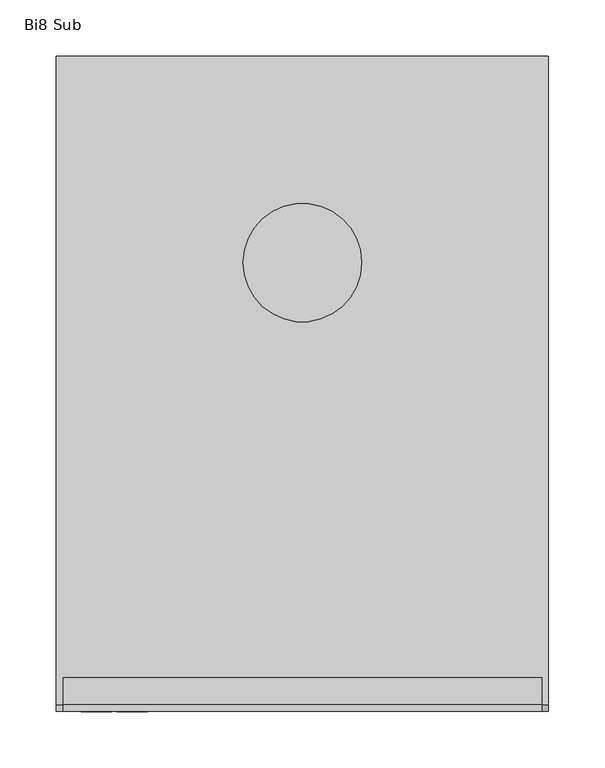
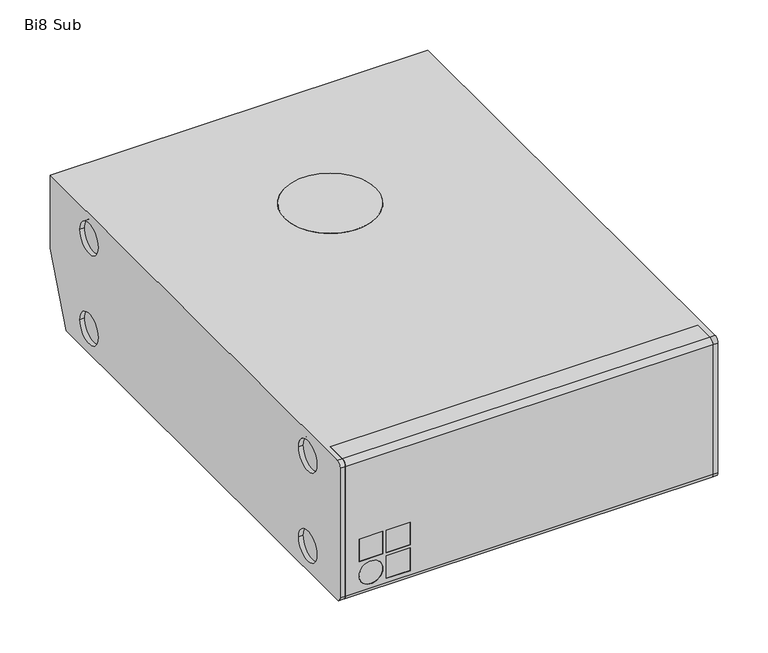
"""IFC4 building model written with IfcOpenShell, lengths in millimetres: proxy geometry, d&b Bi8 Subwoofer : Bi8 Sub."""

from ifc_helpers import new_model, si_unit, point, frame, frame_2d, origin, place, context, project, spatial, polyline, circle_curve, ellipse_curve, trimmed, segment, composite_curve, outline, extrude, source, transform, mapped, element, save
from ifc_brep_helpers import plane_surface, cylinder_surface, revolved_surface, advanced_brep


def bi8_sub_5164e3e7(model_context):
    return source(origin(), model_context, "Body", "SolidModel", [
        advanced_brep(
        [(212.0, -290.0, -76.25), (212.0, -284.0, -82.25), (212.0, -284.0, 87.75), (212.0, -290.0, 81.75), (-212.0, -290.0, -76.25), (-212.0, -290.0, 81.75), (-212.0, -284.0, 87.75), (-212.0, -284.0, -82.25), (-164.8089888, -290.0, -39.7780899), (-164.8089888, -290.0, -12.25), (-137.2808989, -290.0, -12.25), (-137.2808989, -290.0, -39.7780899), (-196.2696629, -290.0, -39.7780899), (-196.2696629, -290.0, -12.25), (-168.741573, -290.0, -12.25), (-168.741573, -290.0, -39.7780899), (-164.8089888, -290.0, -71.238764), (-164.8089888, -290.0, -43.7106742), (-137.2808989, -290.0, -43.7106742), (-137.2808989, -290.0, -71.238764), (-168.741573, -290.0, -57.4747191), (-196.2696629, -290.0, -57.4747191), (-164.8089888, -284.0, -12.25), (-164.8089888, -284.0, -39.7780899), (-137.2808989, -284.0, -39.7780899), (-137.2808989, -284.0, -12.25), (-196.2696629, -284.0, -12.25), (-196.2696629, -284.0, -39.7780899), (-168.741573, -284.0, -39.7780899), (-168.741573, -284.0, -12.25), (-164.8089888, -284.0, -43.7106742), (-164.8089888, -284.0, -71.238764), (-137.2808989, -284.0, -71.238764), (-137.2808989, -284.0, -43.7106742), (-196.2696629, -284.0, -57.4747191), (-168.741573, -284.0, -57.4747191)],
        [
            (0, 1, circle_curve(frame((212.0, -284.0, -76.25), z_axis=(1.0, 0.0, 0.0), x_axis=(0.0, 1.0, 0.0)), 6.0)),
            (1, 2),
            (2, 3, circle_curve(frame((212.0, -284.0, 81.75), z_axis=(1.0, 0.0, 0.0), x_axis=(0.0, 1.0, 0.0)), 6.0)),
            (3, 0),
            (4, 5),
            (5, 6, circle_curve(frame((-212.0, -284.0, 81.75), z_axis=(-1.0, 0.0, 0.0), x_axis=(0.0, 1.0, 0.0)), 6.0)),
            (6, 7),
            (7, 4, circle_curve(frame((-212.0, -284.0, -76.25), z_axis=(-1.0, 0.0, 0.0), x_axis=(0.0, 1.0, 0.0)), 6.0)),
            (3, 5),
            (4, 0),
            (8, 9),
            (9, 10),
            (10, 11),
            (11, 8),
            (12, 13),
            (13, 14),
            (14, 15),
            (15, 12),
            (16, 17),
            (17, 18),
            (18, 19),
            (19, 16),
            (20, 21, circle_curve(frame((-182.505618, -290.0, -57.4747191), z_axis=(0.0, 1.0, 0.0), x_axis=(1.0, 0.0, 0.0)), 13.7640449)),
            (21, 20, circle_curve(frame((-182.505618, -290.0, -57.4747191), z_axis=(0.0, 1.0, 0.0), x_axis=(1.0, 0.0, 0.0)), 13.7640449)),
            (2, 6),
            (7, 1),
            (22, 23),
            (23, 24),
            (24, 25),
            (25, 22),
            (26, 27),
            (27, 28),
            (28, 29),
            (29, 26),
            (30, 31),
            (31, 32),
            (32, 33),
            (33, 30),
            (34, 35, circle_curve(frame((-182.505618, -284.0, -57.4747191), z_axis=(0.0, -1.0, 0.0), x_axis=(1.0, 0.0, 0.0)), 13.7640449)),
            (35, 34, circle_curve(frame((-182.505618, -284.0, -57.4747191), z_axis=(0.0, -1.0, 0.0), x_axis=(1.0, 0.0, 0.0)), 13.7640449)),
            (23, 8),
            (11, 24),
            (10, 25),
            (9, 22),
            (31, 16),
            (19, 32),
            (18, 33),
            (17, 30),
            (12, 27),
            (26, 13),
            (15, 28),
            (14, 29),
            (20, 35),
            (34, 21),
        ],
        [
            plane_surface(frame((212.0, -278.0, -76.25), z_axis=(1.0, 0.0, 0.0), x_axis=(0.0, 0.0, 1.0))),
            plane_surface(frame((-212.0, -278.0, -76.25), z_axis=(-1.0, 0.0, 0.0), x_axis=(0.0, 0.0, -1.0))),
            plane_surface(frame((212.0, -290.0, 81.75), z_axis=(0.0, -1.0, 0.0), x_axis=(-1.0, 0.0, 0.0))),
            cylinder_surface(frame((-212.0, -284.0, 81.75), z_axis=(1.0, 0.0, 0.0), x_axis=(0.0, 1.0, 0.0)), 6.0),
            cylinder_surface(frame((-212.0, -284.0, -76.25), z_axis=(1.0, 0.0, 0.0), x_axis=(0.0, 1.0, 0.0)), 6.0),
            plane_surface(frame((212.0, -284.0, -82.25), z_axis=(0.0, 1.0, 0.0), x_axis=(-1.0, 0.0, 0.0))),
            plane_surface(frame((-164.8089888, -290.0, -39.7780899), z_axis=(0.0, 0.0, 1.0), x_axis=(0.0, 1.0, 0.0))),
            plane_surface(frame((-137.2808989, -290.0, -39.7780899), z_axis=(-1.0, 0.0, 0.0), x_axis=(0.0, 1.0, 0.0))),
            plane_surface(frame((-137.2808989, -290.0, -12.25), z_axis=(0.0, 0.0, -1.0), x_axis=(0.0, 1.0, 0.0))),
            plane_surface(frame((-164.8089888, -290.0, -71.238764), z_axis=(0.0, 0.0, 1.0), x_axis=(0.0, 1.0, 0.0))),
            plane_surface(frame((-137.2808989, -290.0, -71.238764), z_axis=(-1.0, 0.0, 0.0), x_axis=(0.0, 1.0, 0.0))),
            plane_surface(frame((-137.2808989, -290.0, -43.7106742), z_axis=(0.0, 0.0, -1.0), x_axis=(0.0, 1.0, 0.0))),
            plane_surface(frame((-164.8089888, -290.0, -12.25), z_axis=(1.0, 0.0, 0.0), x_axis=(0.0, 1.0, 0.0))),
            plane_surface(frame((-196.2696629, -290.0, -12.25), z_axis=(1.0, 0.0, 0.0), x_axis=(0.0, 1.0, 0.0))),
            plane_surface(frame((-196.2696629, -290.0, -39.7780899), z_axis=(0.0, 0.0, 1.0), x_axis=(0.0, 1.0, 0.0))),
            plane_surface(frame((-168.741573, -290.0, -39.7780899), z_axis=(-1.0, 0.0, 0.0), x_axis=(0.0, 1.0, 0.0))),
            plane_surface(frame((-168.741573, -290.0, -12.25), z_axis=(0.0, 0.0, -1.0), x_axis=(0.0, 1.0, 0.0))),
            plane_surface(frame((-164.8089888, -290.0, -43.7106742), z_axis=(1.0, 0.0, 0.0), x_axis=(0.0, 1.0, 0.0))),
            revolved_surface(polyline([(-168.7415731, -290.0, -57.4747191), (-168.7415731, -284.0, -57.4747191)]), (-182.505618, -290.0, -57.4747191), (0.0, -1.0, 0.0)),
        ],
        [
            (0, [[1, 2, 3, 4]]),
            (1, [[5, 6, 7, 8]]),
            (2, [[-4, 9, -5, 10], [11, 12, 13, 14], [15, 16, 17, 18], [19, 20, 21, 22], [23, 24]]),
            (3, [[-3, 25, -6, -9]]),
            (4, [[-1, -10, -8, 26]]),
            (5, [[-2, -26, -7, -25], [27, 28, 29, 30], [31, 32, 33, 34], [35, 36, 37, 38], [39, 40]]),
            (6, [[41, -14, 42, -28]]),
            (7, [[-42, -13, 43, -29]]),
            (8, [[44, -30, -43, -12]]),
            (9, [[45, -22, 46, -36]]),
            (10, [[-46, -21, 47, -37]]),
            (11, [[48, -38, -47, -20]]),
            (12, [[-41, -27, -44, -11]]),
            (13, [[49, -31, 50, -15]]),
            (14, [[-49, -18, 51, -32]]),
            (15, [[-51, -17, 52, -33]]),
            (16, [[-50, -34, -52, -16]]),
            (17, [[-45, -35, -48, -19]]),
            (18, [[53, -39, 54, -23]]),
            (18, [[-53, -24, -54, -40]]),
        ],
    ),
        extrude(outline(polyline([(-137.2808989, -290.0), (-164.8089888, -290.0), (-164.8089888, -284.0), (-137.2808989, -284.0), (-137.2808989, -290.0)])), frame((0.0, 0.0, -39.7780899), z_axis=(0.0, 0.0, 1.0), x_axis=(1.0, 0.0, 0.0)), (0.0, 0.0, 1.0), 27.5280899),
        extrude(outline(polyline([(-168.741573, -290.0), (-196.2696629, -290.0), (-196.2696629, -284.0), (-168.741573, -284.0), (-168.741573, -290.0)])), frame((0.0, 0.0, -39.7780899), z_axis=(0.0, 0.0, 1.0), x_axis=(1.0, 0.0, 0.0)), (0.0, 0.0, 1.0), 27.5280899),
        extrude(outline(polyline([(-137.2808989, -290.0), (-164.8089888, -290.0), (-164.8089888, -284.0), (-137.2808989, -284.0), (-137.2808989, -290.0)])), frame((0.0, 0.0, -71.238764), z_axis=(0.0, 0.0, 1.0), x_axis=(1.0, 0.0, 0.0)), (0.0, 0.0, 1.0), 27.5280899),
        extrude(outline(composite_curve([segment(trimmed(circle_curve(frame_2d((-57.4747191, -182.505618)), 13.7640449), [point((-57.4747191, -196.2696629))], [point((-57.4747191, -168.741573))], False, "CARTESIAN"), True, "CONTINUOUS"), segment(trimmed(circle_curve(frame_2d((-57.4747191, -182.505618)), 13.7640449), [point((-57.4747191, -168.741573))], [point((-57.4747191, -196.2696629))], False, "CARTESIAN"), True, "CONTINUOUS")], self_intersect=False)), frame((0.0, -290.0, 0.0), z_axis=(0.0, 1.0, 0.0), x_axis=(0.0, 0.0, 1.0)), (0.0, 0.0, 1.0), 6.0),
        extrude(outline(polyline([(212.0, -260.0), (212.0, -284.0), (-212.0, -284.0), (-212.0, -260.0), (212.0, -260.0)])), frame((0.0, 0.0, -82.25), z_axis=(0.0, 0.0, 1.0), x_axis=(1.0, 0.0, 0.0)), (0.0, 0.0, 1.0), 170.0),
        extrude(outline(composite_curve([segment(trimmed(circle_curve(frame_2d((0.0, 107.5)), 52.5), [point((52.5, 107.5))], [point((-52.5, 107.5))], False, "CARTESIAN"), True, "CONTINUOUS"), segment(trimmed(circle_curve(frame_2d((0.0, 107.5)), 52.5), [point((-52.5, 107.5))], [point((52.5, 107.5))], False, "CARTESIAN"), True, "CONTINUOUS")], self_intersect=False)), frame((0.0, 0.0, 77.75), z_axis=(0.0, 0.0, 1.0), x_axis=(1.0, 0.0, 0.0)), (0.0, 0.0, 1.0), 10.0),
        advanced_brep(
        [(212.0, -260.0, -82.25), (-212.0, -260.0, -82.25), (-212.0, -284.0, -82.25), (-218.0, -284.0, -82.25), (-218.0, 257.2738757, -82.25), (218.0, 257.2738757, -82.25), (218.0, -284.0, -82.25), (212.0, -284.0, -82.25), (-159.7271934, 224.9288972, -82.25), (-196.2271934, 224.9288972, -82.25), (196.2271934, 224.9288972, -82.25), (159.7271934, 224.9288972, -82.25), (-159.7271934, -212.1163972, -82.25), (-196.2271934, -212.1163972, -82.25), (196.2271934, -212.1163972, -82.25), (159.7271934, -212.1163972, -82.25), (-218.0, 290.0, -1.25), (-58.4448475, 290.0, -1.25), (-58.4448475, 289.2718385, -3.0522628), (-58.4448475, 270.9729113, -48.3436972), (-46.4448475, 266.1245966, -60.3436972), (45.487267, 266.1245966, -60.3436972), (57.487267, 270.9729113, -48.3436972), (57.487267, 289.2718385, -3.0522628), (57.487267, 290.0, -1.25), (218.0, 290.0, -1.25), (-218.0, 290.0, 87.75), (218.0, 290.0, 87.75), (57.487267, 290.0, 0.6938031), (57.487267, 290.0, 47.4846055), (45.487267, 290.0, 59.4846055), (-46.4448475, 290.0, 59.4846055), (-58.4448475, 290.0, 47.4846055), (-58.4448475, 290.0, 0.6938031), (-212.0, -260.0, 87.75), (212.0, -260.0, 87.75), (212.0, -284.0, 87.75), (218.0, -284.0, 87.75), (-218.0, -284.0, 87.75), (-212.0, -284.0, 87.75), (-52.5, 107.5, 87.75), (52.5, 107.5, 87.75), (-212.0, -290.0, 81.75), (-212.0, -290.0, -76.25), (-218.0, -290.0, -76.25), (-218.0, -290.0, 81.75), (-218.0, 193.75, 57.75), (-218.0, 230.25, 57.75), (-218.0, 193.75, -52.25), (-218.0, 230.25, -52.25), (-218.0, -243.25, 57.75), (-218.0, -206.75, 57.75), (-218.0, -243.25, -52.25), (-218.0, -206.75, -52.25), (212.0, -290.0, -76.25), (212.0, -290.0, 81.75), (218.0, -290.0, 81.75), (218.0, -290.0, -76.25), (52.5, 107.5, 77.75), (-52.5, 107.5, 77.75), (45.487267, 256.954574, -60.3436972), (-46.4448475, 256.954574, -60.3436972), (-56.6650566, 256.954574, -54.6323637), (55.7074761, 256.954574, -54.6323637), (-46.4448475, 256.954574, 59.4846055), (45.487267, 256.954574, 59.4846055), (51.3483362, 256.954574, 57.9558933), (-52.3059167, 256.954574, 57.9558933), (58.4448475, 256.954574, 57.9558933), (58.4448475, 256.954574, -54.6323637), (58.4448475, 211.6877968, -36.3433986), (58.4448475, 250.7929844, 60.4453371), (-58.4448475, 250.7929844, 60.4453371), (-58.4448475, 256.954574, 57.9558933), (-58.4448475, 211.6877968, -36.3433986), (-58.4448475, 256.954574, -54.6323637), (57.487267, 256.954574, 47.4846055), (57.487267, 256.954574, -48.3436972), (-58.4448475, 256.954574, 47.4846055), (-58.4448475, 256.954574, -48.3436972), (-212.5, 193.75, 57.75), (-212.5, 230.25, 57.75), (-212.5, 193.75, -52.25), (-212.5, 230.25, -52.25), (-212.5, -243.25, 57.75), (-212.5, -206.75, 57.75), (-212.5, -243.25, -52.25), (-212.5, -206.75, -52.25), (-159.7271934, 224.9288972, -76.75), (-196.2271934, 224.9288972, -76.75), (196.2271934, 224.9288972, -76.75), (159.7271934, 224.9288972, -76.75), (-159.7271934, -212.1163972, -76.75), (-196.2271934, -212.1163972, -76.75), (196.2271934, -212.1163972, -76.75), (159.7271934, -212.1163972, -76.75)],
        [
            (0, 1),
            (1, 2),
            (2, 3),
            (3, 4),
            (4, 5),
            (5, 6),
            (6, 7),
            (7, 0),
            (8, 9, circle_curve(frame((-177.9771934, 224.9288972, -82.25), z_axis=(0.0, 0.0, 1.0), x_axis=(-1.0, 0.0, 0.0)), 18.25)),
            (9, 8, circle_curve(frame((-177.9771934, 224.9288972, -82.25), z_axis=(0.0, 0.0, 1.0), x_axis=(-1.0, 0.0, 0.0)), 18.25)),
            (10, 11, circle_curve(frame((177.9771934, 224.9288972, -82.25), z_axis=(0.0, 0.0, 1.0), x_axis=(-1.0, 0.0, 0.0)), 18.25)),
            (11, 10, circle_curve(frame((177.9771934, 224.9288972, -82.25), z_axis=(0.0, 0.0, 1.0), x_axis=(-1.0, 0.0, 0.0)), 18.25)),
            (12, 13, circle_curve(frame((-177.9771934, -212.1163972, -82.25), z_axis=(0.0, 0.0, 1.0), x_axis=(-1.0, 0.0, 0.0)), 18.25)),
            (13, 12, circle_curve(frame((-177.9771934, -212.1163972, -82.25), z_axis=(0.0, 0.0, 1.0), x_axis=(-1.0, 0.0, 0.0)), 18.25)),
            (14, 15, circle_curve(frame((177.9771934, -212.1163972, -82.25), z_axis=(0.0, 0.0, 1.0), x_axis=(-1.0, 0.0, 0.0)), 18.25)),
            (15, 14, circle_curve(frame((177.9771934, -212.1163972, -82.25), z_axis=(0.0, 0.0, 1.0), x_axis=(-1.0, 0.0, 0.0)), 18.25)),
            (4, 16),
            (16, 17),
            (17, 18),
            (18, 19),
            (19, 20, ellipse_curve(frame((-46.4448475, 270.9729113, -48.3436972), z_axis=(0.0, -0.9271838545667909, 0.3746065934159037), x_axis=(0.0, 0.37460659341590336, 0.927183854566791)), 12.9424169, 12.0)),
            (20, 21),
            (21, 22, ellipse_curve(frame((45.487267, 270.9729113, -48.3436972), z_axis=(0.0, -0.9271838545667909, 0.3746065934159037), x_axis=(0.0, 0.37460659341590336, 0.927183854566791)), 12.9424169, 12.0)),
            (22, 23),
            (23, 24),
            (24, 25),
            (25, 5),
            (16, 26),
            (26, 27),
            (27, 25),
            (24, 28),
            (28, 29),
            (29, 30, circle_curve(frame((45.487267, 290.0, 47.4846055), z_axis=(0.0, -1.0, 0.0), x_axis=(-1.0, 0.0, 0.0)), 12.0)),
            (30, 31),
            (31, 32, circle_curve(frame((-46.4448475, 290.0, 47.4846055), z_axis=(0.0, -1.0, 0.0), x_axis=(-1.0, 0.0, 0.0)), 12.0)),
            (32, 33),
            (33, 17),
            (34, 35),
            (35, 36),
            (36, 37),
            (37, 27),
            (26, 38),
            (38, 39),
            (39, 34),
            (40, 41, circle_curve(frame((0.0, 107.5, 87.75), z_axis=(0.0, 0.0, -1.0), x_axis=(-1.0, 0.0, 0.0)), 52.5)),
            (41, 40, circle_curve(frame((0.0, 107.5, 87.75), z_axis=(0.0, 0.0, -1.0), x_axis=(-1.0, 0.0, 0.0)), 52.5)),
            (0, 35),
            (34, 1),
            (39, 42, circle_curve(frame((-212.0, -284.0, 81.75), z_axis=(1.0, 0.0, 0.0), x_axis=(0.0, 1.0, 0.0)), 6.0)),
            (42, 43),
            (43, 2, circle_curve(frame((-212.0, -284.0, -76.25), z_axis=(1.0, 0.0, 0.0), x_axis=(0.0, 1.0, 0.0)), 6.0)),
            (3, 44, circle_curve(frame((-218.0, -284.0, -76.25), z_axis=(-1.0, 0.0, 0.0), x_axis=(0.0, 1.0, 0.0)), 6.0)),
            (44, 45),
            (45, 38, circle_curve(frame((-218.0, -284.0, 81.75), z_axis=(-1.0, 0.0, 0.0), x_axis=(0.0, 1.0, 0.0)), 6.0)),
            (46, 47, circle_curve(frame((-218.0, 212.0, 57.75), z_axis=(1.0, 0.0, 0.0), x_axis=(0.0, 1.0, 0.0)), 18.25)),
            (47, 46, circle_curve(frame((-218.0, 212.0, 57.75), z_axis=(1.0, 0.0, 0.0), x_axis=(0.0, 1.0, 0.0)), 18.25)),
            (48, 49, circle_curve(frame((-218.0, 212.0, -52.25), z_axis=(1.0, 0.0, 0.0), x_axis=(0.0, 1.0, 0.0)), 18.25)),
            (49, 48, circle_curve(frame((-218.0, 212.0, -52.25), z_axis=(1.0, 0.0, 0.0), x_axis=(0.0, 1.0, 0.0)), 18.25)),
            (50, 51, circle_curve(frame((-218.0, -225.0, 57.75), z_axis=(1.0, 0.0, 0.0), x_axis=(0.0, 1.0, 0.0)), 18.25)),
            (51, 50, circle_curve(frame((-218.0, -225.0, 57.75), z_axis=(1.0, 0.0, 0.0), x_axis=(0.0, 1.0, 0.0)), 18.25)),
            (52, 53, circle_curve(frame((-218.0, -225.0, -52.25), z_axis=(1.0, 0.0, 0.0), x_axis=(0.0, 1.0, 0.0)), 18.25)),
            (53, 52, circle_curve(frame((-218.0, -225.0, -52.25), z_axis=(1.0, 0.0, 0.0), x_axis=(0.0, 1.0, 0.0)), 18.25)),
            (42, 45),
            (44, 43),
            (7, 54, circle_curve(frame((212.0, -284.0, -76.25), z_axis=(-1.0, 0.0, 0.0), x_axis=(0.0, 1.0, 0.0)), 6.0)),
            (54, 55),
            (55, 36, circle_curve(frame((212.0, -284.0, 81.75), z_axis=(-1.0, 0.0, 0.0), x_axis=(0.0, 1.0, 0.0)), 6.0)),
            (37, 56, circle_curve(frame((218.0, -284.0, 81.75), z_axis=(1.0, 0.0, 0.0), x_axis=(0.0, 1.0, 0.0)), 6.0)),
            (56, 57),
            (57, 6, circle_curve(frame((218.0, -284.0, -76.25), z_axis=(1.0, 0.0, 0.0), x_axis=(0.0, 1.0, 0.0)), 6.0)),
            (54, 57),
            (56, 55),
            (58, 59, circle_curve(frame((0.0, 107.5, 77.75), z_axis=(0.0, 0.0, 1.0), x_axis=(-1.0, 0.0, 0.0)), 52.5)),
            (59, 58, circle_curve(frame((0.0, 107.5, 77.75), z_axis=(0.0, 0.0, 1.0), x_axis=(-1.0, 0.0, 0.0)), 52.5)),
            (58, 41),
            (40, 59),
            (60, 61),
            (61, 62, circle_curve(frame((-46.4448475, 256.954574, -48.3436972), z_axis=(0.0, 1.0, 0.0), x_axis=(-1.0, 0.0, 0.0)), 12.0)),
            (62, 63),
            (63, 60, circle_curve(frame((45.487267, 256.954574, -48.3436972), z_axis=(0.0, 1.0, 0.0), x_axis=(-1.0, 0.0, 0.0)), 12.0)),
            (64, 65),
            (65, 66, circle_curve(frame((45.487267, 256.954574, 47.4846055), z_axis=(0.0, 1.0, 0.0), x_axis=(-1.0, 0.0, 0.0)), 12.0)),
            (66, 67),
            (67, 64, circle_curve(frame((-46.4448475, 256.954574, 47.4846055), z_axis=(0.0, 1.0, 0.0), x_axis=(-1.0, 0.0, 0.0)), 12.0)),
            (60, 21),
            (20, 61),
            (64, 31),
            (30, 65),
            (68, 69),
            (69, 70),
            (70, 71),
            (71, 68),
            (71, 72),
            (72, 73),
            (73, 67),
            (66, 68),
            (70, 74),
            (74, 72),
            (69, 63),
            (62, 75),
            (75, 74),
            (66, 76, circle_curve(frame((45.487267, 256.954574, 47.4846055), z_axis=(0.0, 1.0, 0.0), x_axis=(-1.0, 0.0, 0.0)), 12.0)),
            (76, 77),
            (77, 63, circle_curve(frame((45.487267, 256.954574, -48.3436972), z_axis=(0.0, 1.0, 0.0), x_axis=(-1.0, 0.0, 0.0)), 12.0)),
            (73, 78),
            (78, 67, circle_curve(frame((-46.4448475, 256.954574, 47.4846055), z_axis=(0.0, 1.0, 0.0), x_axis=(-1.0, 0.0, 0.0)), 12.0)),
            (79, 75),
            (62, 79, circle_curve(frame((-46.4448475, 256.954574, -48.3436972), z_axis=(0.0, 1.0, 0.0), x_axis=(-1.0, 0.0, 0.0)), 12.0)),
            (76, 29),
            (22, 77),
            (19, 79),
            (32, 78),
            (80, 81, circle_curve(frame((-212.5, 212.0, 57.75), z_axis=(-1.0, 0.0, 0.0), x_axis=(0.0, 1.0, 0.0)), 18.25)),
            (81, 80, circle_curve(frame((-212.5, 212.0, 57.75), z_axis=(-1.0, 0.0, 0.0), x_axis=(0.0, 1.0, 0.0)), 18.25)),
            (82, 83, circle_curve(frame((-212.5, 212.0, -52.25), z_axis=(-1.0, 0.0, 0.0), x_axis=(0.0, 1.0, 0.0)), 18.25)),
            (83, 82, circle_curve(frame((-212.5, 212.0, -52.25), z_axis=(-1.0, 0.0, 0.0), x_axis=(0.0, 1.0, 0.0)), 18.25)),
            (84, 85, circle_curve(frame((-212.5, -225.0, 57.75), z_axis=(-1.0, 0.0, 0.0), x_axis=(0.0, 1.0, 0.0)), 18.25)),
            (85, 84, circle_curve(frame((-212.5, -225.0, 57.75), z_axis=(-1.0, 0.0, 0.0), x_axis=(0.0, 1.0, 0.0)), 18.25)),
            (86, 87, circle_curve(frame((-212.5, -225.0, -52.25), z_axis=(-1.0, 0.0, 0.0), x_axis=(0.0, 1.0, 0.0)), 18.25)),
            (87, 86, circle_curve(frame((-212.5, -225.0, -52.25), z_axis=(-1.0, 0.0, 0.0), x_axis=(0.0, 1.0, 0.0)), 18.25)),
            (81, 47),
            (46, 80),
            (83, 49),
            (48, 82),
            (85, 51),
            (50, 84),
            (87, 53),
            (52, 86),
            (88, 89, circle_curve(frame((-177.9771934, 224.9288972, -76.75), z_axis=(0.0, 0.0, -1.0), x_axis=(-1.0, 0.0, 0.0)), 18.25)),
            (89, 88, circle_curve(frame((-177.9771934, 224.9288972, -76.75), z_axis=(0.0, 0.0, -1.0), x_axis=(-1.0, 0.0, 0.0)), 18.25)),
            (90, 91, circle_curve(frame((177.9771934, 224.9288972, -76.75), z_axis=(0.0, 0.0, -1.0), x_axis=(-1.0, 0.0, 0.0)), 18.25)),
            (91, 90, circle_curve(frame((177.9771934, 224.9288972, -76.75), z_axis=(0.0, 0.0, -1.0), x_axis=(-1.0, 0.0, 0.0)), 18.25)),
            (92, 93, circle_curve(frame((-177.9771934, -212.1163972, -76.75), z_axis=(0.0, 0.0, -1.0), x_axis=(-1.0, 0.0, 0.0)), 18.25)),
            (93, 92, circle_curve(frame((-177.9771934, -212.1163972, -76.75), z_axis=(0.0, 0.0, -1.0), x_axis=(-1.0, 0.0, 0.0)), 18.25)),
            (94, 95, circle_curve(frame((177.9771934, -212.1163972, -76.75), z_axis=(0.0, 0.0, -1.0), x_axis=(-1.0, 0.0, 0.0)), 18.25)),
            (95, 94, circle_curve(frame((177.9771934, -212.1163972, -76.75), z_axis=(0.0, 0.0, -1.0), x_axis=(-1.0, 0.0, 0.0)), 18.25)),
            (89, 9),
            (8, 88),
            (91, 11),
            (10, 90),
            (93, 13),
            (12, 92),
            (95, 15),
            (14, 94),
        ],
        [
            plane_surface(frame((212.0, -260.0, -82.25), z_axis=(0.0, 0.0, -1.0), x_axis=(-1.0, 0.0, 0.0))),
            plane_surface(frame((212.0, 257.2738757, -82.25), z_axis=(0.0, 0.9271838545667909, -0.3746065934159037), x_axis=(-1.0, 0.0, 0.0))),
            plane_surface(frame((212.0, 290.0, -1.25), z_axis=(0.0, 1.0, 0.0), x_axis=(-1.0, 0.0, 0.0))),
            plane_surface(frame((212.0, 290.0, 87.75), z_axis=(0.0, 0.0, 1.0), x_axis=(-1.0, 0.0, 0.0))),
            plane_surface(frame((212.0, -260.0, 87.75), z_axis=(0.0, -1.0, 0.0), x_axis=(-1.0, 0.0, 0.0))),
            plane_surface(frame((-212.0, -278.0, 81.75), z_axis=(1.0, 0.0, 0.0), x_axis=(0.0, 0.0, 1.0))),
            plane_surface(frame((-218.0, -278.0, 81.75), z_axis=(-1.0, 0.0, 0.0), x_axis=(0.0, 0.0, -1.0))),
            plane_surface(frame((-212.0, -290.0, 81.75), z_axis=(0.0, -1.0, 0.0), x_axis=(-1.0, 0.0, 0.0))),
            cylinder_surface(frame((-218.0, -284.0, 81.75), z_axis=(1.0, 0.0, 0.0), x_axis=(0.0, 1.0, 0.0)), 6.0),
            cylinder_surface(frame((-218.0, -284.0, -76.25), z_axis=(1.0, 0.0, 0.0), x_axis=(0.0, 1.0, 0.0)), 6.0),
            plane_surface(frame((212.0, 264.0, 87.75), z_axis=(-1.0, 0.0, 0.0), x_axis=(0.0, 1.0, 0.0))),
            plane_surface(frame((218.0, 264.0, 87.75), z_axis=(1.0, 0.0, 0.0), x_axis=(0.0, -1.0, 0.0))),
            plane_surface(frame((212.0, -290.0, -76.25), z_axis=(0.0, -1.0, 0.0), x_axis=(1.0, 0.0, 0.0))),
            cylinder_surface(frame((218.0, -284.0, -76.25), z_axis=(-1.0, 0.0, 0.0), x_axis=(0.0, 1.0, 0.0)), 6.0),
            cylinder_surface(frame((218.0, -284.0, 81.75), z_axis=(-1.0, 0.0, 0.0), x_axis=(0.0, 1.0, 0.0)), 6.0),
            plane_surface(frame((-52.5, 107.5, 77.75), z_axis=(0.0, 0.0, 1.0), x_axis=(0.0, 1.0, 0.0))),
            revolved_surface(polyline([(-52.5, 107.5, 87.75), (-52.5, 107.5, 77.75)]), (0.0, 107.5, 77.75), (0.0, 0.0, 1.0)),
            plane_surface(frame((33.487267, 256.954574, 47.4846055), z_axis=(0.0, 1.0, 0.0), x_axis=(0.0, 0.0, -1.0))),
            plane_surface(frame((45.487267, 290.0, -60.3436972), z_axis=(0.0, 0.0, 1.0), x_axis=(0.0, -1.0, 0.0))),
            plane_surface(frame((-46.4448475, 290.0, 59.4846055), z_axis=(0.0, 0.0, -1.0), x_axis=(0.0, -1.0, 0.0))),
            plane_surface(frame((58.4448475, 250.7929844, 60.4453371), z_axis=(-1.0000000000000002, 0.0, 0.0), x_axis=(0.0, -0.9271838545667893, 0.3746065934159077))),
            plane_surface(frame((58.4448475, 256.954574, 57.9558933), z_axis=(0.0, -0.3746065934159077, -0.9271838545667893), x_axis=(-1.0, 0.0, 0.0))),
            plane_surface(frame((58.4448475, 250.7929844, 60.4453371), z_axis=(0.0, 0.92718385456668, -0.37460659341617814), x_axis=(-1.0, 0.0, 0.0))),
            plane_surface(frame((58.4448475, 211.6877968, -36.3433986), z_axis=(0.0, 0.3746065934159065, 0.9271838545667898), x_axis=(-1.0, 0.0, 0.0))),
            plane_surface(frame((58.4448475, 256.954574, -54.6323637), z_axis=(0.0, -1.0, 0.0), x_axis=(-1.0, 0.0, 0.0))),
            plane_surface(frame((57.487267, 290.0, 47.4846055), z_axis=(-1.0, 0.0, 0.0), x_axis=(0.0, -1.0, 0.0))),
            revolved_surface(polyline([(33.487267, 275.82122600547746, -48.3436972), (33.487267, 256.954574, -48.3436972)]), (45.487267, 256.954574, -48.3436972), (0.0, 1.0, 0.0)),
            revolved_surface(polyline([(-58.4448475, 275.82122600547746, -48.3436972), (-58.4448475, 256.954574, -48.3436972)]), (-46.4448475, 256.954574, -48.3436972), (0.0, 1.0, 0.0)),
            plane_surface(frame((-58.4448475, 290.0, -48.3436972), z_axis=(1.0, 0.0, 0.0), x_axis=(0.0, -1.0, 0.0))),
            revolved_surface(polyline([(33.487267, 290.0, 47.4846055), (33.487267, 256.954574, 47.4846055)]), (45.487267, 256.954574, 47.4846055), (0.0, 1.0, 0.0)),
            revolved_surface(polyline([(-58.4448475, 290.0, 47.4846055), (-58.4448475, 256.954574, 47.4846055)]), (-46.4448475, 256.954574, 47.4846055), (0.0, 1.0, 0.0)),
            plane_surface(frame((-212.5, 230.25, 57.75), z_axis=(-1.0, 0.0, 0.0), x_axis=(0.0, 0.0, 1.0))),
            revolved_surface(polyline([(-212.5, 230.25, 57.75), (-218.0, 230.25, 57.75)]), (-218.0, 212.0, 57.75), (1.0, 0.0, 0.0)),
            revolved_surface(polyline([(-212.5, 230.25, -52.25), (-218.0, 230.25, -52.25)]), (-218.0, 212.0, -52.25), (1.0, 0.0, 0.0)),
            revolved_surface(polyline([(-212.5, -206.75, 57.75), (-218.0, -206.75, 57.75)]), (-218.0, -225.0, 57.75), (1.0, 0.0, 0.0)),
            revolved_surface(polyline([(-212.5, -206.75, -52.25), (-218.0, -206.75, -52.25)]), (-218.0, -225.0, -52.25), (1.0, 0.0, 0.0)),
            plane_surface(frame((-196.2271934, 224.9288972, -76.75), z_axis=(0.0, 0.0, -1.0), x_axis=(0.0, -1.0, 0.0))),
            revolved_surface(polyline([(-196.2271934, 224.9288972, -76.75), (-196.2271934, 224.9288972, -82.25)]), (-177.9771934, 224.9288972, -82.25), (0.0, 0.0, 1.0)),
            revolved_surface(polyline([(159.7271934, 224.9288972, -76.75), (159.7271934, 224.9288972, -82.25)]), (177.9771934, 224.9288972, -82.25), (0.0, 0.0, 1.0)),
            revolved_surface(polyline([(-196.2271934, -212.1163972, -76.75), (-196.2271934, -212.1163972, -82.25)]), (-177.9771934, -212.1163972, -82.25), (0.0, 0.0, 1.0)),
            revolved_surface(polyline([(159.7271934, -212.1163972, -76.75), (159.7271934, -212.1163972, -82.25)]), (177.9771934, -212.1163972, -82.25), (0.0, 0.0, 1.0)),
        ],
        [
            (0, [[1, 2, 3, 4, 5, 6, 7, 8], [9, 10], [11, 12], [13, 14], [15, 16]]),
            (1, [[17, 18, 19, 20, 21, 22, 23, 24, 25, 26, 27, -5]]),
            (2, [[28, 29, 30, -26, 31, 32, 33, 34, 35, 36, 37, -18]]),
            (3, [[38, 39, 40, 41, -29, 42, 43, 44], [45, 46]]),
            (4, [[-1, 47, -38, 48]]),
            (5, [[49, 50, 51, -2, -48, -44]]),
            (6, [[-42, -28, -17, -4, 52, 53, 54], [55, 56], [57, 58], [59, 60], [61, 62]]),
            (7, [[-50, 63, -53, 64]]),
            (8, [[-49, -43, -54, -63]]),
            (9, [[-51, -64, -52, -3]]),
            (10, [[65, 66, 67, -39, -47, -8]]),
            (11, [[68, 69, 70, -6, -27, -30, -41]]),
            (12, [[-66, 71, -69, 72]]),
            (13, [[-65, -7, -70, -71]]),
            (14, [[-67, -72, -68, -40]]),
            (15, [[73, 74]]),
            (16, [[-73, 75, -45, 76]]),
            (16, [[-74, -76, -46, -75]]),
            (17, [[77, 78, 79, 80]]),
            (17, [[81, 82, 83, 84]]),
            (18, [[-77, 85, -22, 86]]),
            (19, [[-81, 87, -34, 88]]),
            (20, [[89, 90, 91, 92]]),
            (21, [[-92, 93, 94, 95, -83, 96]]),
            (22, [[-91, 97, 98, -93]]),
            (23, [[-90, 99, -79, 100, 101, -97]]),
            (24, [[-89, -96, 102, 103, 104, -99]]),
            (24, [[105, 106, -95]]),
            (24, [[107, -100, 108]]),
            (25, [[109, -32, -31, -25, -24, 110, -103]]),
            (26, [[-85, -80, -104, -110, -23]]),
            (27, [[-86, -21, 111, -108, -78]]),
            (28, [[112, -105, -94, -98, -101, -107, -111, -20, -19, -37, -36]]),
            (29, [[-88, -33, -109, -102, -82]]),
            (30, [[-87, -84, -106, -112, -35]]),
            (31, [[113, 114]]),
            (31, [[115, 116]]),
            (31, [[117, 118]]),
            (31, [[119, 120]]),
            (32, [[-114, 121, -55, 122]]),
            (32, [[-113, -122, -56, -121]]),
            (33, [[-116, 123, -57, 124]]),
            (33, [[-115, -124, -58, -123]]),
            (34, [[-118, 125, -59, 126]]),
            (34, [[-117, -126, -60, -125]]),
            (35, [[-120, 127, -61, 128]]),
            (35, [[-119, -128, -62, -127]]),
            (36, [[129, 130]]),
            (36, [[131, 132]]),
            (36, [[133, 134]]),
            (36, [[135, 136]]),
            (37, [[-130, 137, -9, 138]]),
            (37, [[-129, -138, -10, -137]]),
            (38, [[-132, 139, -11, 140]]),
            (38, [[-131, -140, -12, -139]]),
            (39, [[-134, 141, -13, 142]]),
            (39, [[-133, -142, -14, -141]]),
            (40, [[-136, 143, -15, 144]]),
            (40, [[-135, -144, -16, -143]]),
        ],
    ),
        advanced_brep(
        [(-58.4448475, 289.2718385, -3.0522628), (-48.4448475, 289.2718385, -3.0522628), (-48.4448475, 270.9729113, -48.3436972), (-46.4448475, 270.1648588, -50.3436972), (45.487267, 270.1648588, -50.3436972), (47.487267, 270.9729113, -48.3436972), (47.487267, 289.2718385, -3.0522628), (57.487267, 289.2718385, -3.0522628), (57.487267, 270.9729113, -48.3436972), (45.487267, 266.1245966, -60.3436972), (-46.4448475, 266.1245966, -60.3436972), (-58.4448475, 270.9729113, -48.3436972), (-48.4448475, 290.0, 0.6938031), (-58.4448475, 290.0, 0.6938031), (-58.4448475, 290.0, 47.4846055), (-46.4448475, 290.0, 59.4846055), (45.487267, 290.0, 59.4846055), (57.487267, 290.0, 47.4846055), (57.487267, 290.0, 0.6938031), (47.487267, 290.0, 0.6938031), (47.487267, 290.0, 47.4846055), (45.487267, 290.0, 49.4846055), (-46.4448475, 290.0, 49.4846055), (-48.4448475, 290.0, 47.4846055), (45.487267, 256.954574, 59.4846055), (-46.4448475, 256.954574, 59.4846055), (-58.4448475, 256.954574, 47.4846055), (-58.4448475, 256.954574, -48.3436972), (-46.4448475, 256.954574, -60.3436972), (45.487267, 256.954574, -60.3436972), (57.487267, 256.954574, -48.3436972), (57.487267, 256.954574, 47.4846055), (45.487267, 256.954574, 49.4846055), (47.487267, 256.954574, 47.4846055), (47.487267, 256.954574, -48.3436972), (45.487267, 256.954574, -50.3436972), (-46.4448475, 256.954574, -50.3436972), (-48.4448475, 256.954574, -48.3436972), (-48.4448475, 256.954574, 47.4846055), (-46.4448475, 256.954574, 49.4846055)],
        [
            (0, 1),
            (1, 2),
            (2, 3, ellipse_curve(frame((-46.4448475, 270.9729113, -48.3436972), z_axis=(0.0, -0.9271838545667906, 0.3746065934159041), x_axis=(0.0, -0.3746065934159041, -0.9271838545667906)), 2.1570695, 2.0)),
            (3, 4),
            (4, 5, ellipse_curve(frame((45.487267, 270.9729113, -48.3436972), z_axis=(0.0, -0.9271838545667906, 0.3746065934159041), x_axis=(0.0, -0.3746065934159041, -0.9271838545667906)), 2.1570695, 2.0)),
            (5, 6),
            (6, 7),
            (7, 8),
            (8, 9, ellipse_curve(frame((45.487267, 270.9729113, -48.3436972), z_axis=(0.0, 0.9271838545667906, -0.3746065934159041), x_axis=(0.0, 0.3746065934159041, 0.9271838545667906)), 12.9424169, 12.0)),
            (9, 10),
            (10, 11, ellipse_curve(frame((-46.4448475, 270.9729113, -48.3436972), z_axis=(0.0, 0.9271838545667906, -0.3746065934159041), x_axis=(0.0, 0.3746065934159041, 0.9271838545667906)), 12.9424169, 12.0)),
            (11, 0),
            (12, 13),
            (13, 14),
            (14, 15, circle_curve(frame((-46.4448475, 290.0, 47.4846055), z_axis=(0.0, 1.0, 0.0), x_axis=(-1.0, 0.0, 0.0)), 12.0)),
            (15, 16),
            (16, 17, circle_curve(frame((45.487267, 290.0, 47.4846055), z_axis=(0.0, 1.0, 0.0), x_axis=(-1.0, 0.0, 0.0)), 12.0)),
            (17, 18),
            (18, 19),
            (19, 20),
            (20, 21, circle_curve(frame((45.487267, 290.0, 47.4846055), z_axis=(0.0, -1.0, 0.0), x_axis=(-1.0, 0.0, 0.0)), 2.0)),
            (21, 22),
            (22, 23, circle_curve(frame((-46.4448475, 290.0, 47.4846055), z_axis=(0.0, -1.0, 0.0), x_axis=(-1.0, 0.0, 0.0)), 2.0)),
            (23, 12),
            (24, 25),
            (25, 26, circle_curve(frame((-46.4448475, 256.954574, 47.4846055), z_axis=(0.0, -1.0, 0.0), x_axis=(-1.0, 0.0, 0.0)), 12.0)),
            (26, 27),
            (27, 28, circle_curve(frame((-46.4448475, 256.954574, -48.3436972), z_axis=(0.0, -1.0, 0.0), x_axis=(-1.0, 0.0, 0.0)), 12.0)),
            (28, 29),
            (29, 30, circle_curve(frame((45.487267, 256.954574, -48.3436972), z_axis=(0.0, -1.0, 0.0), x_axis=(-1.0, 0.0, 0.0)), 12.0)),
            (30, 31),
            (31, 24, circle_curve(frame((45.487267, 256.954574, 47.4846055), z_axis=(0.0, -1.0, 0.0), x_axis=(-1.0, 0.0, 0.0)), 12.0)),
            (32, 33, circle_curve(frame((45.487267, 256.954574, 47.4846055), z_axis=(0.0, 1.0, 0.0), x_axis=(-1.0, 0.0, 0.0)), 2.0)),
            (33, 34),
            (34, 35, circle_curve(frame((45.487267, 256.954574, -48.3436972), z_axis=(0.0, 1.0, 0.0), x_axis=(-1.0, 0.0, 0.0)), 2.0)),
            (35, 36),
            (36, 37, circle_curve(frame((-46.4448475, 256.954574, -48.3436972), z_axis=(0.0, 1.0, 0.0), x_axis=(-1.0, 0.0, 0.0)), 2.0)),
            (37, 38),
            (38, 39, circle_curve(frame((-46.4448475, 256.954574, 47.4846055), z_axis=(0.0, 1.0, 0.0), x_axis=(-1.0, 0.0, 0.0)), 2.0)),
            (39, 32),
            (31, 17),
            (16, 24),
            (30, 8),
            (7, 18, circle_curve(frame((57.487267, 280.0, 0.6938031), z_axis=(1.0, 0.0, 0.0), x_axis=(0.0, 1.0, 0.0)), 10.0)),
            (29, 9),
            (28, 10),
            (27, 11),
            (26, 14),
            (13, 0, circle_curve(frame((-58.4448475, 280.0, 0.6938031), z_axis=(-1.0, 0.0, 0.0), x_axis=(0.0, 1.0, 0.0)), 10.0)),
            (25, 15),
            (39, 22),
            (21, 32),
            (38, 23),
            (37, 2),
            (1, 12, circle_curve(frame((-48.4448475, 280.0, 0.6938031), z_axis=(1.0, 0.0, 0.0), x_axis=(0.0, 1.0, 0.0)), 10.0)),
            (36, 3),
            (35, 4),
            (34, 5),
            (33, 20),
            (19, 6, circle_curve(frame((47.487267, 280.0, 0.6938031), z_axis=(-1.0, 0.0, 0.0), x_axis=(0.0, 1.0, 0.0)), 10.0)),
        ],
        [
            plane_surface(frame((57.487267, 289.2718385, -3.0522628), z_axis=(0.0, 0.9271838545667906, -0.3746065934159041), x_axis=(-1.0, 0.0, 0.0))),
            plane_surface(frame((57.487267, 290.0, 69.4846055), z_axis=(0.0, 1.0, 0.0), x_axis=(-1.0, 0.0, 0.0))),
            plane_surface(frame((33.487267, 256.954574, 47.4846055), z_axis=(0.0, -1.0, 0.0), x_axis=(0.0, 0.0, -1.0))),
            cylinder_surface(frame((45.487267, 256.954574, 47.4846055), z_axis=(0.0, 1.0, 0.0), x_axis=(-1.0, 0.0, 0.0)), 12.0),
            plane_surface(frame((57.487267, 305.0, 47.4846055), z_axis=(1.0, 0.0, 0.0), x_axis=(0.0, -1.0, 0.0))),
            cylinder_surface(frame((45.487267, 256.954574, -48.3436972), z_axis=(0.0, 1.0, 0.0), x_axis=(-1.0, 0.0, 0.0)), 12.0),
            plane_surface(frame((45.487267, 305.0, -60.3436972), z_axis=(0.0, 0.0, -1.0), x_axis=(0.0, -1.0, 0.0))),
            cylinder_surface(frame((-46.4448475, 256.954574, -48.3436972), z_axis=(0.0, 1.0, 0.0), x_axis=(-1.0, 0.0, 0.0)), 12.0),
            plane_surface(frame((-58.4448475, 305.0, -48.3436972), z_axis=(-1.0, 0.0, 0.0), x_axis=(0.0, -1.0, 0.0))),
            cylinder_surface(frame((-46.4448475, 256.954574, 47.4846055), z_axis=(0.0, 1.0, 0.0), x_axis=(-1.0, 0.0, 0.0)), 12.0),
            plane_surface(frame((-46.4448475, 305.0, 59.4846055), z_axis=(0.0, 0.0, 1.0), x_axis=(0.0, -1.0, 0.0))),
            plane_surface(frame((45.487267, 305.0, 49.4846055), z_axis=(0.0, 0.0, -1.0), x_axis=(0.0, -1.0, 0.0))),
            revolved_surface(polyline([(-48.4448475, 256.954574, 47.4846055), (-48.4448475, 290.0, 47.4846055)]), (-46.4448475, 290.0, 47.4846055), (0.0, -1.0, 0.0)),
            plane_surface(frame((-48.4448475, 305.0, 47.4846055), z_axis=(1.0, 0.0, 0.0), x_axis=(0.0, -1.0, 0.0))),
            revolved_surface(polyline([(-48.4448475, 256.954574, -48.3436972), (-48.4448475, 271.78096375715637, -48.3436972)]), (-46.4448475, 290.0, -48.3436972), (0.0, -1.0, 0.0)),
            plane_surface(frame((-46.4448475, 305.0, -50.3436972), z_axis=(0.0, 0.0, 1.0), x_axis=(0.0, -1.0, 0.0))),
            revolved_surface(polyline([(43.487267, 256.954574, -48.3436972), (43.487267, 271.78096375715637, -48.3436972)]), (45.487267, 290.0, -48.3436972), (0.0, -1.0, 0.0)),
            plane_surface(frame((47.487267, 305.0, -48.3436972), z_axis=(-1.0, 0.0, 0.0), x_axis=(0.0, -1.0, 0.0))),
            revolved_surface(polyline([(43.487267, 256.954574, 47.4846055), (43.487267, 290.0, 47.4846055)]), (45.487267, 290.0, 47.4846055), (0.0, -1.0, 0.0)),
            cylinder_surface(frame((-58.4448475, 280.0, 0.6938031), z_axis=(-1.0, 0.0, 0.0), x_axis=(0.0, 1.0, 0.0)), 10.0),
        ],
        [
            (0, [[1, 2, 3, 4, 5, 6, 7, 8, 9, 10, 11, 12]]),
            (1, [[13, 14, 15, 16, 17, 18, 19, 20, 21, 22, 23, 24]]),
            (2, [[25, 26, 27, 28, 29, 30, 31, 32], [33, 34, 35, 36, 37, 38, 39, 40]]),
            (3, [[-32, 41, -17, 42]]),
            (4, [[-31, 43, -8, 44, -18, -41]]),
            (5, [[-30, 45, -9, -43]]),
            (6, [[-29, 46, -10, -45]]),
            (7, [[-28, 47, -11, -46]]),
            (8, [[-27, 48, -14, 49, -12, -47]]),
            (9, [[-26, 50, -15, -48]]),
            (10, [[-25, -42, -16, -50]]),
            (11, [[-40, 51, -22, 52]]),
            (12, [[-39, 53, -23, -51]]),
            (13, [[-38, 54, -2, 55, -24, -53]]),
            (14, [[-37, 56, -3, -54]]),
            (15, [[-36, 57, -4, -56]]),
            (16, [[-35, 58, -5, -57]]),
            (17, [[-34, 59, -20, 60, -6, -58]]),
            (18, [[-33, -52, -21, -59]]),
            (19, [[-1, -49, -13, -55]]),
            (19, [[-7, -60, -19, -44]]),
        ],
    ),
        extrude(outline(composite_curve([segment(polyline([(5.5711551, 47.487267), (28.3316517, 47.487267)]), True, "CONTINUOUS"), segment(trimmed(circle_curve(frame_2d((-521.1097177, -0.4787902)), 551.5311061), [point((28.3316517, 47.487267))], [point((28.3316517, -48.4448475))], False, "CARTESIAN"), True, "CONTINUOUS"), segment(polyline([(28.3316517, -48.4448475), (5.5711551, -48.4448475)]), True, "CONTINUOUS"), segment(trimmed(circle_curve(frame_2d((555.0125245, -0.4787902)), 551.5311061), [point((5.5711551, -48.4448475))], [point((5.5711551, 47.487267))], False, "CARTESIAN"), True, "CONTINUOUS")], self_intersect=False)), frame((0.0, 280.0, 0.0), z_axis=(0.0, 1.0, 0.0), x_axis=(0.0, 0.0, 1.0)), (0.0, 0.0, 1.0), 10.0),
    ])


if __name__ == "__main__":
    model = new_model("IFC4")
    model_context = context("Model", 3, world=origin())
    ifc_project = project(units=[si_unit("LENGTHUNIT", "METRE", prefix="MILLI")], contexts=[model_context])
    site = spatial("IfcSite", under=ifc_project)
    building = spatial("IfcBuilding", under=site)
    placement = place(None, origin())
    bi8_sub_shape = bi8_sub_5164e3e7(model_context)
    element("IfcBuildingElementProxy", 1, Name="d&b Bi8 Subwoofer : Bi8 Sub", ObjectType="d&b Bi8 Subwoofer : Bi8 Sub", at=placement, inside=building, context=model_context, shape_type="MappedRepresentation", body=[
        mapped(bi8_sub_shape, transform((0.0, 0.0, 0.0), x_axis=(1.0, 0.0, 0.0), y_axis=(0.0, 1.0, 0.0), z_axis=(0.0, 0.0, 1.0))),
    ])
    save(model, "model.ifc")
